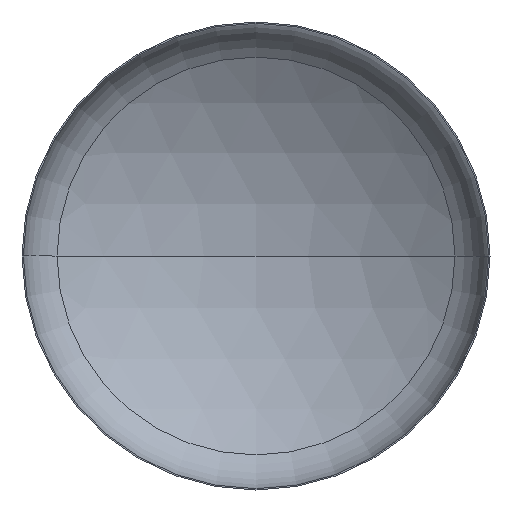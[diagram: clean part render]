
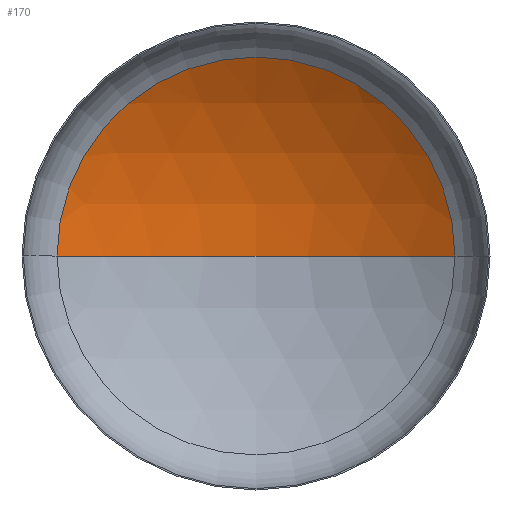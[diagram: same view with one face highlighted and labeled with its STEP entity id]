
A CAD part, front view. The second image highlights one B-rep face of the part: STEP entity #170.
In plain terms, the highlighted spherical face has radius 4000 mm.
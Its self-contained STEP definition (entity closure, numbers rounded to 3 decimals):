
#8 = EDGE_LOOP ( 'NONE', ( #105, #62, #85 ) ) ;
#13 = AXIS2_PLACEMENT_3D ( 'NONE', #158, #151, #264 ) ;
#18 = AXIS2_PLACEMENT_3D ( 'NONE', #103, #146, #154 ) ;
#24 = AXIS2_PLACEMENT_3D ( 'NONE', #359, #178, #182 ) ;
#43 = VERTEX_POINT ( 'NONE', #275 ) ;
#62 = ORIENTED_EDGE ( 'NONE', *, *, #370, .T. ) ;
#75 = CIRCLE ( 'NONE', #18, 4000. ) ;
#79 = VERTEX_POINT ( 'NONE', #244 ) ;
#85 = ORIENTED_EDGE ( 'NONE', *, *, #376, .T. ) ;
#86 = AXIS2_PLACEMENT_3D ( 'NONE', #206, #224, #214 ) ;
#103 = CARTESIAN_POINT ( 'NONE',  ( 0., -2691.466, 0. ) ) ;
#105 = ORIENTED_EDGE ( 'NONE', *, *, #349, .F. ) ;
#114 = VERTEX_POINT ( 'NONE', #228 ) ;
#146 = DIRECTION ( 'NONE',  ( 0., 0., -1. ) ) ;
#151 = DIRECTION ( 'NONE',  ( 0., -1., 0. ) ) ;
#154 = DIRECTION ( 'NONE',  ( -1., 0., 0. ) ) ;
#158 = CARTESIAN_POINT ( 'NONE',  ( 0., 697.346, 0. ) ) ;
#170 = ADVANCED_FACE ( 'NONE', ( #411 ), #355, .F. ) ;
#178 = DIRECTION ( 'NONE',  ( 0., 0., 1. ) ) ;
#182 = DIRECTION ( 'NONE',  ( 1., 0., 0. ) ) ;
#190 = CIRCLE ( 'NONE', #13, 2125.077 ) ;
#206 = CARTESIAN_POINT ( 'NONE',  ( 0., -2691.466, 0. ) ) ;
#214 = DIRECTION ( 'NONE',  ( -1., 0., 0. ) ) ;
#224 = DIRECTION ( 'NONE',  ( 0., 0., -1. ) ) ;
#228 = CARTESIAN_POINT ( 'NONE',  ( -2125.077, 697.346, 0. ) ) ;
#244 = CARTESIAN_POINT ( 'NONE',  ( 0., 1308.534, 0. ) ) ;
#251 = CIRCLE ( 'NONE', #24, 4000. ) ;
#264 = DIRECTION ( 'NONE',  ( 1., 0., 0. ) ) ;
#275 = CARTESIAN_POINT ( 'NONE',  ( 2125.077, 697.346, 0. ) ) ;
#349 = EDGE_CURVE ( 'NONE', #79, #114, #251, .T. ) ;
#355 = SPHERICAL_SURFACE ( 'NONE', #86, 4000. ) ;
#359 = CARTESIAN_POINT ( 'NONE',  ( 0., -2691.466, 0. ) ) ;
#370 = EDGE_CURVE ( 'NONE', #79, #43, #75, .T. ) ;
#376 = EDGE_CURVE ( 'NONE', #43, #114, #190, .T. ) ;
#411 = FACE_OUTER_BOUND ( 'NONE', #8, .T. ) ;
